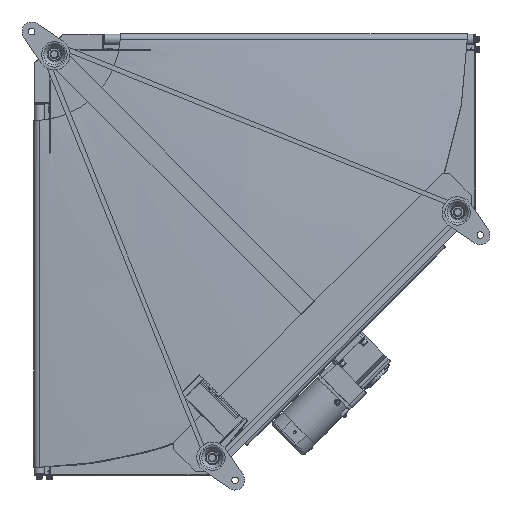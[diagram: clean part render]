
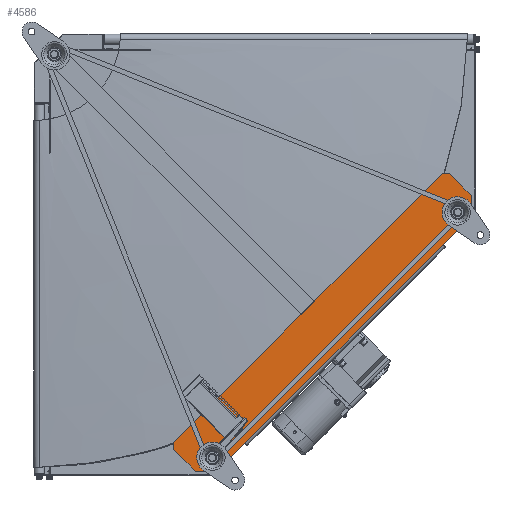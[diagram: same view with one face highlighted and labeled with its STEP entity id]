
A CAD part, front view. The second image highlights one B-rep face of the part: STEP entity #4586.
In plain terms, the highlighted planar face has unit normal (0, -1, 0).
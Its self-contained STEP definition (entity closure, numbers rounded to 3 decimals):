
#1774 = EDGE_CURVE ( 'NONE', #57185, #61335, #7795, .T. ) ;
#4586 = ADVANCED_FACE ( 'NONE', ( #6717 ), #57117, .T. ) ;
#5492 = DIRECTION ( 'NONE',  ( 0., 0., -1. ) ) ;
#5740 = LINE ( 'NONE', #54972, #58210 ) ;
#5845 = CARTESIAN_POINT ( 'NONE',  ( 273.297, -167.5, -814.233 ) ) ;
#5970 = LINE ( 'NONE', #22563, #31008 ) ;
#6035 = DIRECTION ( 'NONE',  ( 0., 0., 1. ) ) ;
#6717 = FACE_OUTER_BOUND ( 'NONE', #12088, .T. ) ;
#7158 = ORIENTED_EDGE ( 'NONE', *, *, #49126, .F. ) ;
#7795 = LINE ( 'NONE', #33749, #50590 ) ;
#8129 = VERTEX_POINT ( 'NONE', #49941 ) ;
#8529 = ORIENTED_EDGE ( 'NONE', *, *, #33051, .F. ) ;
#9495 = ORIENTED_EDGE ( 'NONE', *, *, #23924, .F. ) ;
#10816 = LINE ( 'NONE', #48783, #17268 ) ;
#12088 = EDGE_LOOP ( 'NONE', ( #14689, #37193, #18948, #66284, #7158, #8529, #55632, #9495 ) ) ;
#12625 = CARTESIAN_POINT ( 'NONE',  ( 358.15, -167.5, -856.66 ) ) ;
#14689 = ORIENTED_EDGE ( 'NONE', *, *, #46619, .F. ) ;
#14703 = CARTESIAN_POINT ( 'NONE',  ( 814.233, -167.5, -273.297 ) ) ;
#15113 = LINE ( 'NONE', #48401, #29709 ) ;
#17231 = VERTEX_POINT ( 'NONE', #53232 ) ;
#17268 = VECTOR ( 'NONE', #28935, 1000. ) ;
#17854 = LINE ( 'NONE', #19130, #53354 ) ;
#18424 = DIRECTION ( 'NONE',  ( -0.707, 0., 0.707 ) ) ;
#18948 = ORIENTED_EDGE ( 'NONE', *, *, #23909, .F. ) ;
#19130 = CARTESIAN_POINT ( 'NONE',  ( 315.723, -167.5, -856.66 ) ) ;
#22101 = CARTESIAN_POINT ( 'NONE',  ( 856.66, -167.5, -358.15 ) ) ;
#22563 = CARTESIAN_POINT ( 'NONE',  ( 800.091, -167.5, -273.297 ) ) ;
#23909 = EDGE_CURVE ( 'NONE', #61335, #34493, #17854, .T. ) ;
#23924 = EDGE_CURVE ( 'NONE', #66553, #8129, #5740, .T. ) ;
#26983 = CARTESIAN_POINT ( 'NONE',  ( 273.297, -167.5, -800.091 ) ) ;
#28771 = DIRECTION ( 'NONE',  ( -0.707, 0., -0.707 ) ) ;
#28935 = DIRECTION ( 'NONE',  ( 0., 0., -1. ) ) ;
#29709 = VECTOR ( 'NONE', #18424, 1000. ) ;
#29713 = DIRECTION ( 'NONE',  ( 0.707, 0., 0.707 ) ) ;
#30262 = VECTOR ( 'NONE', #60477, 1000. ) ;
#30448 = VECTOR ( 'NONE', #6035, 1000. ) ;
#31008 = VECTOR ( 'NONE', #59072, 1000. ) ;
#32537 = VERTEX_POINT ( 'NONE', #44540 ) ;
#33051 = EDGE_CURVE ( 'NONE', #17231, #32537, #56919, .T. ) ;
#33546 = DIRECTION ( 'NONE',  ( -1., 0., 0. ) ) ;
#33749 = CARTESIAN_POINT ( 'NONE',  ( 358.15, -167.5, -856.66 ) ) ;
#34493 = VERTEX_POINT ( 'NONE', #55877 ) ;
#37193 = ORIENTED_EDGE ( 'NONE', *, *, #46610, .F. ) ;
#41793 = DIRECTION ( 'NONE',  ( 0., -1., 0. ) ) ;
#44540 = CARTESIAN_POINT ( 'NONE',  ( 856.66, -167.5, -315.723 ) ) ;
#45768 = LINE ( 'NONE', #26983, #30448 ) ;
#46474 = AXIS2_PLACEMENT_3D ( 'NONE', #62058, #41793, #5492 ) ;
#46610 = EDGE_CURVE ( 'NONE', #34493, #59666, #15113, .T. ) ;
#46619 = EDGE_CURVE ( 'NONE', #59666, #66553, #45768, .T. ) ;
#48401 = CARTESIAN_POINT ( 'NONE',  ( 273.297, -167.5, -814.233 ) ) ;
#48783 = CARTESIAN_POINT ( 'NONE',  ( 856.66, -167.5, -358.15 ) ) ;
#49126 = EDGE_CURVE ( 'NONE', #32537, #57185, #10816, .T. ) ;
#49941 = CARTESIAN_POINT ( 'NONE',  ( 800.091, -167.5, -273.297 ) ) ;
#50590 = VECTOR ( 'NONE', #28771, 1000. ) ;
#53232 = CARTESIAN_POINT ( 'NONE',  ( 814.233, -167.5, -273.297 ) ) ;
#53354 = VECTOR ( 'NONE', #33546, 1000. ) ;
#54972 = CARTESIAN_POINT ( 'NONE',  ( 273.297, -167.5, -800.091 ) ) ;
#55319 = CARTESIAN_POINT ( 'NONE',  ( 273.297, -167.5, -800.091 ) ) ;
#55632 = ORIENTED_EDGE ( 'NONE', *, *, #58944, .F. ) ;
#55877 = CARTESIAN_POINT ( 'NONE',  ( 315.723, -167.5, -856.66 ) ) ;
#56919 = LINE ( 'NONE', #14703, #30262 ) ;
#57117 = PLANE ( 'NONE',  #46474 ) ;
#57185 = VERTEX_POINT ( 'NONE', #22101 ) ;
#58210 = VECTOR ( 'NONE', #29713, 1000. ) ;
#58944 = EDGE_CURVE ( 'NONE', #8129, #17231, #5970, .T. ) ;
#59072 = DIRECTION ( 'NONE',  ( 1., 0., 0. ) ) ;
#59666 = VERTEX_POINT ( 'NONE', #5845 ) ;
#60477 = DIRECTION ( 'NONE',  ( 0.707, 0., -0.707 ) ) ;
#61335 = VERTEX_POINT ( 'NONE', #12625 ) ;
#62058 = CARTESIAN_POINT ( 'NONE',  ( 0., -167.5, 0. ) ) ;
#66284 = ORIENTED_EDGE ( 'NONE', *, *, #1774, .F. ) ;
#66553 = VERTEX_POINT ( 'NONE', #55319 ) ;
